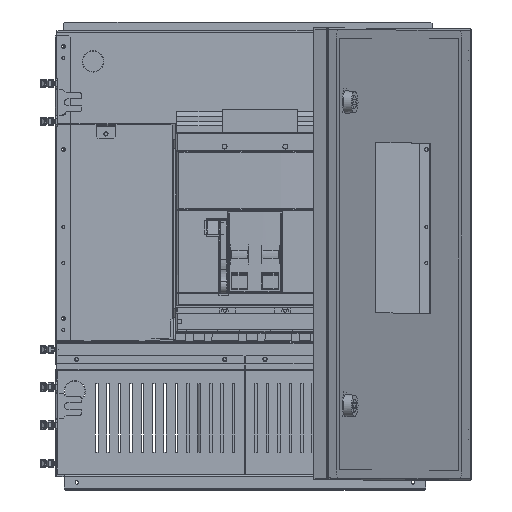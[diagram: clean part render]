
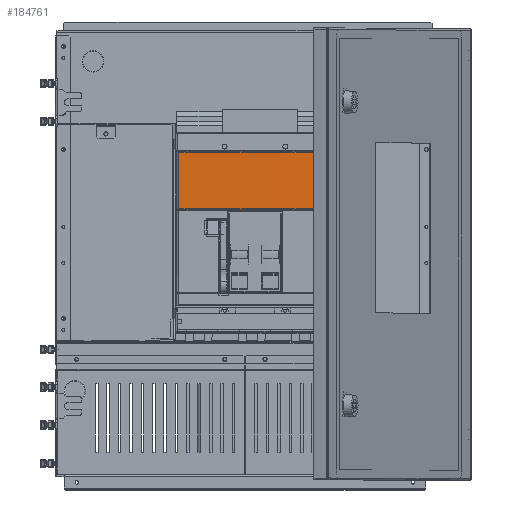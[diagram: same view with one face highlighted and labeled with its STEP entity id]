
A CAD part, top view. The second image highlights one B-rep face of the part: STEP entity #184761.
In plain terms, the highlighted cylindrical face has radius 2382 mm (diameter 4764 mm), a partial arc.
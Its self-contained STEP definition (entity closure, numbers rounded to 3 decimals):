
#174256=CARTESIAN_POINT(' ',(-101.084,181.854,159.2));
#174257=VERTEX_POINT(' ',#174256);
#174461=CARTESIAN_POINT(' ',(100.223,181.89,159.2));
#174462=VERTEX_POINT(' ',#174461);
#174486=CARTESIAN_POINT(' ',(0.001,-2198.177,159.2));
#174491=DIRECTION(' ',(0.,0.,1.));
#174496=DIRECTION(' ',(0.042,0.999,0.));
#174501=AXIS2_PLACEMENT_3D(' ',#174486,#174491,#174496);
#174506=CIRCLE('',#174501,2382.177);
#174511=EDGE_CURVE(' ',#174462,#174257,#174506,.T.);
#184551=CARTESIAN_POINT(' ',(-101.084,181.854,236.3));
#184556=DIRECTION(' ',(0.,0.,-1.));
#184561=VECTOR(' ',#184556,1.);
#184566=LINE('',#184551,#184561);
#184571=CARTESIAN_POINT(' ',(-101.084,181.854,236.3));
#184572=VERTEX_POINT(' ',#184571);
#184576=EDGE_CURVE(' ',#184572,#174257,#184566,.T.);
#184646=CARTESIAN_POINT(' ',(0.,-2198.,197.75));
#184651=DIRECTION(' ',(0.,0.,1.));
#184656=DIRECTION(' ',(0.042,0.999,-0.));
#184661=AXIS2_PLACEMENT_3D(' ',#184646,#184651,#184656);
#184666=CYLINDRICAL_SURFACE(' ',#184661,2382.);
#184671=CARTESIAN_POINT(' ',(100.223,181.89,236.3));
#184676=DIRECTION(' ',(0.,0.,-1.));
#184681=VECTOR(' ',#184676,1.);
#184686=LINE('',#184671,#184681);
#184691=CARTESIAN_POINT(' ',(100.223,181.89,236.3));
#184692=VERTEX_POINT(' ',#184691);
#184696=EDGE_CURVE(' ',#184692,#174462,#184686,.T.);
#184701=ORIENTED_EDGE(' ',*,*,#184696,.T.);
#184706=ORIENTED_EDGE(' ',*,*,#174511,.T.);
#184711=ORIENTED_EDGE(' ',*,*,#184576,.F.);
#184716=CARTESIAN_POINT(' ',(0.001,-2198.177,236.3));
#184721=DIRECTION(' ',(0.,0.,1.));
#184726=DIRECTION(' ',(0.042,0.999,0.));
#184731=AXIS2_PLACEMENT_3D(' ',#184716,#184721,#184726);
#184736=CIRCLE('',#184731,2382.177);
#184741=EDGE_CURVE(' ',#184692,#184572,#184736,.T.);
#184746=ORIENTED_EDGE(' ',*,*,#184741,.F.);
#184751=EDGE_LOOP(' ',(#184701,#184706,#184711,#184746));
#184756=FACE_OUTER_BOUND(' ',#184751,.T.);
#184761=ADVANCED_FACE('NONE',(#184756),#184666,.T.);
